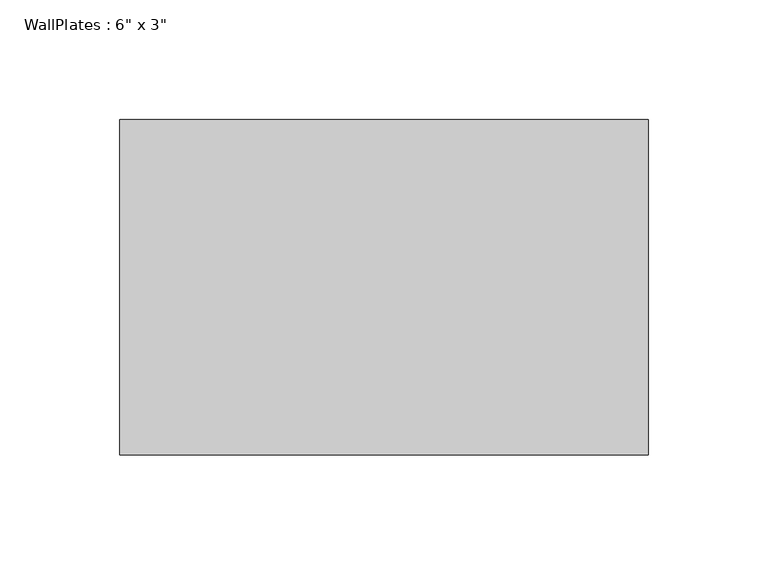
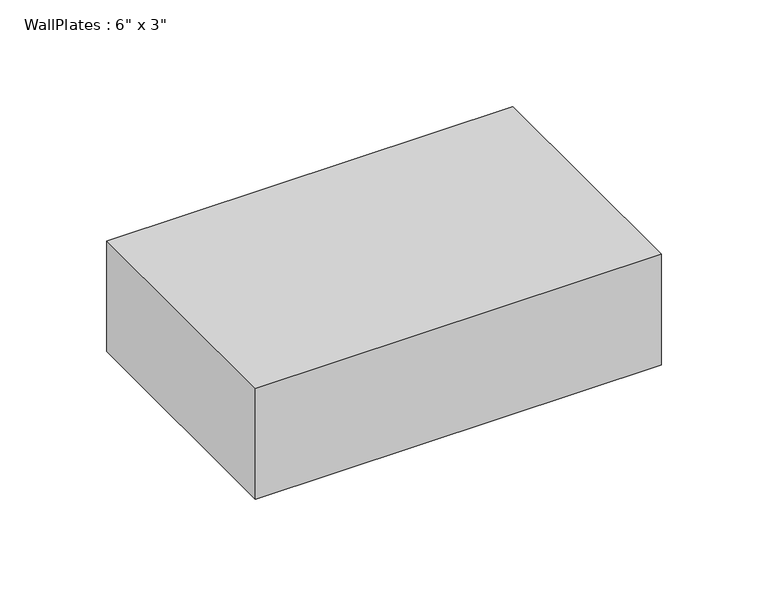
"""IFC4 building model written with IfcOpenShell, lengths in millimetres: beam geometry."""

from ifc_helpers import new_model, si_unit, frame, origin, place, context, project, spatial, polyline, outline, extrude, source, transform, mapped, element, save


def beam_9570771f(model_context):
    return source(origin(), model_context, "Body", "SweptSolid", [
        extrude(outline(polyline([(-110.061667, -69.85), (-110.061667, 69.85), (110.061667, 69.85), (110.061667, -69.85), (-110.061667, -69.85)])), frame((0.0, 0.0, -31.75), z_axis=(0.0, 0.0, 1.0), x_axis=(1.0, 0.0, 0.0)), (0.0, 0.0, 1.0), 63.5),
    ])


if __name__ == "__main__":
    model = new_model("IFC4")
    model_context = context("Model", 3, world=origin())
    ifc_project = project(units=[si_unit("LENGTHUNIT", "METRE", prefix="MILLI")], contexts=[model_context])
    site = spatial("IfcSite", under=ifc_project)
    building = spatial("IfcBuilding", under=site)
    placement = place(None, origin())
    beam_shape = beam_9570771f(model_context)
    element("IfcBeam", 1, ObjectType="WallPlates : 6\" x 3\"", at=placement, inside=building, context=model_context, shape_type="MappedRepresentation", body=[
        mapped(beam_shape, transform((0.0, 0.0, 0.0), x_axis=(1.0, 0.0, 0.0), y_axis=(0.0, 1.0, 0.0), z_axis=(0.0, 0.0, 1.0))),
    ])
    save(model, "model.ifc")
